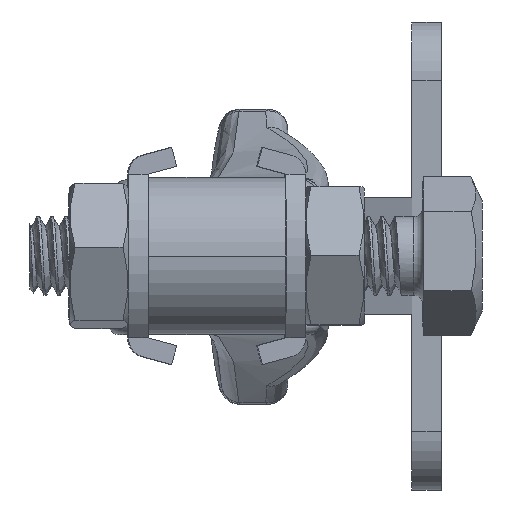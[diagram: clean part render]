
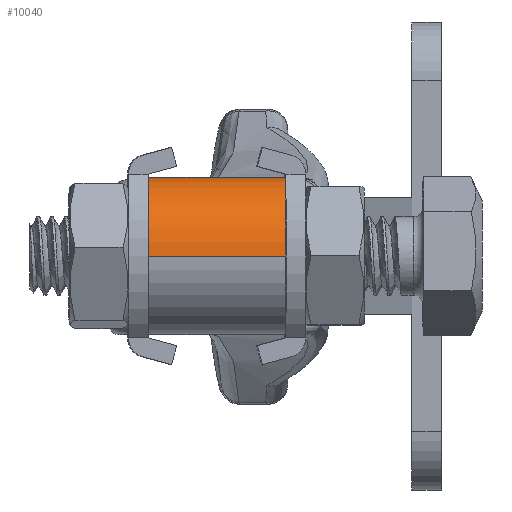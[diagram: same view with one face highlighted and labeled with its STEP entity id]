
A CAD part, left-side view. The second image highlights one B-rep face of the part: STEP entity #10040.
In plain terms, the highlighted cylindrical face has radius 4 mm (diameter 8.001 mm), a partial arc.
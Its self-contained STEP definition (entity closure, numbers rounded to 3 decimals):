
#1102=FACE_OUTER_BOUND('',#1670,.T.);
#1670=EDGE_LOOP('',(#6841,#6842,#6843,#6844));
#2309=LINE('',#13758,#3129);
#2311=LINE('',#13764,#3131);
#3129=VECTOR('',#11543,1000.);
#3131=VECTOR('',#11549,1000.);
#3947=CIRCLE('',#10802,4.);
#3948=CIRCLE('',#10803,4.);
#4225=VERTEX_POINT('',#13755);
#4226=VERTEX_POINT('',#13757);
#4227=VERTEX_POINT('',#13761);
#4228=VERTEX_POINT('',#13763);
#5271=EDGE_CURVE('',#4226,#4225,#2309,.T.);
#5273=EDGE_CURVE('',#4225,#4227,#3947,.T.);
#5274=EDGE_CURVE('',#4228,#4227,#2311,.T.);
#5275=EDGE_CURVE('',#4228,#4226,#3948,.T.);
#6841=ORIENTED_EDGE('',*,*,#5271,.T.);
#6842=ORIENTED_EDGE('',*,*,#5273,.T.);
#6843=ORIENTED_EDGE('',*,*,#5274,.F.);
#6844=ORIENTED_EDGE('',*,*,#5275,.T.);
#9909=CYLINDRICAL_SURFACE('',#10801,4.);
#10040=ADVANCED_FACE('',(#1102),#9909,.T.);
#10801=AXIS2_PLACEMENT_3D('',#13760,#11545,#11546);
#10802=AXIS2_PLACEMENT_3D('',#13762,#11547,#11548);
#10803=AXIS2_PLACEMENT_3D('',#13765,#11550,#11551);
#11543=DIRECTION('',(0.,0.,-1.));
#11545=DIRECTION('center_axis',(0.,0.,-1.));
#11546=DIRECTION('ref_axis',(-1.,0.,0.));
#11547=DIRECTION('center_axis',(0.,0.,1.));
#11548=DIRECTION('ref_axis',(1.,0.,0.));
#11549=DIRECTION('',(0.,0.,-1.));
#11550=DIRECTION('center_axis',(0.,0.,-1.));
#11551=DIRECTION('ref_axis',(-1.,0.,0.));
#13755=CARTESIAN_POINT('',(-28.8,0.,2.7));
#13757=CARTESIAN_POINT('',(-28.8,0.,9.7));
#13758=CARTESIAN_POINT('',(-28.8,0.,12.4));
#13760=CARTESIAN_POINT('Origin',(-24.8,0.,
12.4));
#13761=CARTESIAN_POINT('',(-24.8,-4.,2.7));
#13762=CARTESIAN_POINT('Origin',(-24.8,0.,
2.7));
#13763=CARTESIAN_POINT('',(-24.8,-4.,9.7));
#13764=CARTESIAN_POINT('',(-24.8,-4.,12.4));
#13765=CARTESIAN_POINT('Origin',(-24.8,0.,
9.7));
